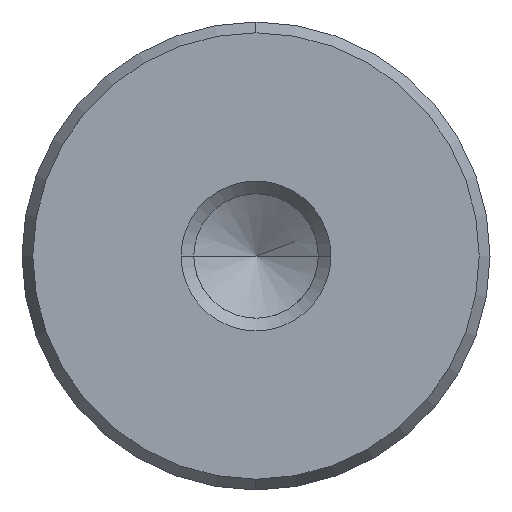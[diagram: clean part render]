
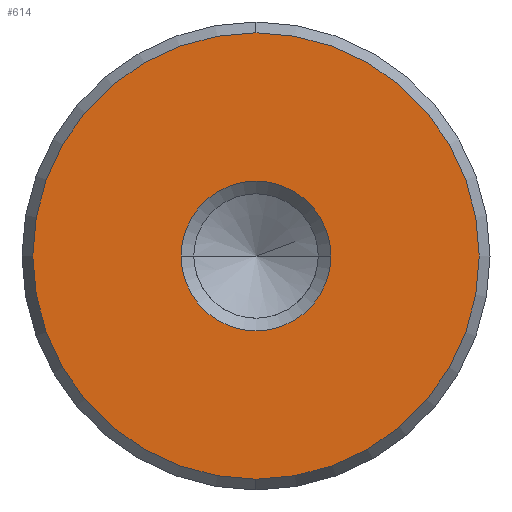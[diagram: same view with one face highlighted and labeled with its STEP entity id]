
A CAD part, left-side view. The second image highlights one B-rep face of the part: STEP entity #614.
In plain terms, the highlighted planar face has unit normal (-1, 0, 0).
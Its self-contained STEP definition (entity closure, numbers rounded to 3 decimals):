
#528=CARTESIAN_POINT('Vertex',(0.,0.,-11.923)) ;
#531=CARTESIAN_POINT('Axis2P3D Location',(0.,0.,0.)) ;
#535=CARTESIAN_POINT('Vertex',(0.,11.923,0.)) ;
#538=CARTESIAN_POINT('Axis2P3D Location',(0.,0.,0.)) ;
#542=CARTESIAN_POINT('Vertex',(0.,0.,11.923)) ;
#564=CARTESIAN_POINT('Axis2P3D Location',(0.,0.,0.)) ;
#568=CARTESIAN_POINT('Vertex',(0.,-11.923,0.)) ;
#571=CARTESIAN_POINT('Axis2P3D Location',(0.,0.,0.)) ;
#585=CARTESIAN_POINT('Axis2P3D Location',(0.,0.,0.)) ;
#596=CARTESIAN_POINT('Axis2P3D Location',(0.,0.,0.)) ;
#600=CARTESIAN_POINT('Vertex',(0.,4.,0.)) ;
#602=CARTESIAN_POINT('Vertex',(0.,-4.,0.)) ;
#605=CARTESIAN_POINT('Axis2P3D Location',(0.,0.,0.)) ;
#532=DIRECTION('Axis2P3D Direction',(1.,0.,-0.)) ;
#539=DIRECTION('Axis2P3D Direction',(1.,0.,-0.)) ;
#565=DIRECTION('Axis2P3D Direction',(1.,0.,-0.)) ;
#572=DIRECTION('Axis2P3D Direction',(1.,0.,-0.)) ;
#586=DIRECTION('Axis2P3D Direction',(1.,0.,-0.)) ;
#587=DIRECTION('Axis2P3D XDirection',(-0.,0.,-1.)) ;
#597=DIRECTION('Axis2P3D Direction',(1.,0.,-0.)) ;
#606=DIRECTION('Axis2P3D Direction',(1.,0.,-0.)) ;
#533=AXIS2_PLACEMENT_3D('Circle Axis2P3D',#531,#532,$) ;
#540=AXIS2_PLACEMENT_3D('Circle Axis2P3D',#538,#539,$) ;
#566=AXIS2_PLACEMENT_3D('Circle Axis2P3D',#564,#565,$) ;
#573=AXIS2_PLACEMENT_3D('Circle Axis2P3D',#571,#572,$) ;
#588=AXIS2_PLACEMENT_3D('Plane Axis2P3D',#585,#586,#587) ;
#598=AXIS2_PLACEMENT_3D('Circle Axis2P3D',#596,#597,$) ;
#607=AXIS2_PLACEMENT_3D('Circle Axis2P3D',#605,#606,$) ;
#591=ORIENTED_EDGE('',*,*,#537,.F.) ;
#592=ORIENTED_EDGE('',*,*,#575,.F.) ;
#593=ORIENTED_EDGE('',*,*,#570,.F.) ;
#594=ORIENTED_EDGE('',*,*,#544,.F.) ;
#611=ORIENTED_EDGE('',*,*,#604,.T.) ;
#612=ORIENTED_EDGE('',*,*,#609,.T.) ;
#613=FACE_BOUND('',#610,.T.) ;
#614=ADVANCED_FACE('720-25x224',(#595,#613),#589,.F.) ;
#534=CIRCLE('generated circle',#533,11.923) ;
#541=CIRCLE('generated circle',#540,11.923) ;
#567=CIRCLE('generated circle',#566,11.923) ;
#574=CIRCLE('generated circle',#573,11.923) ;
#599=CIRCLE('generated circle',#598,4.) ;
#608=CIRCLE('generated circle',#607,4.) ;
#537=EDGE_CURVE('',#529,#536,#534,.T.) ;
#544=EDGE_CURVE('',#536,#543,#541,.T.) ;
#570=EDGE_CURVE('',#543,#569,#567,.T.) ;
#575=EDGE_CURVE('',#569,#529,#574,.T.) ;
#604=EDGE_CURVE('',#601,#603,#599,.T.) ;
#609=EDGE_CURVE('',#603,#601,#608,.T.) ;
#590=EDGE_LOOP('',(#591,#592,#593,#594)) ;
#610=EDGE_LOOP('',(#611,#612)) ;
#595=FACE_OUTER_BOUND('',#590,.T.) ;
#589=PLANE('Plane',#588) ;
#529=VERTEX_POINT('',#528) ;
#536=VERTEX_POINT('',#535) ;
#543=VERTEX_POINT('',#542) ;
#569=VERTEX_POINT('',#568) ;
#601=VERTEX_POINT('',#600) ;
#603=VERTEX_POINT('',#602) ;
